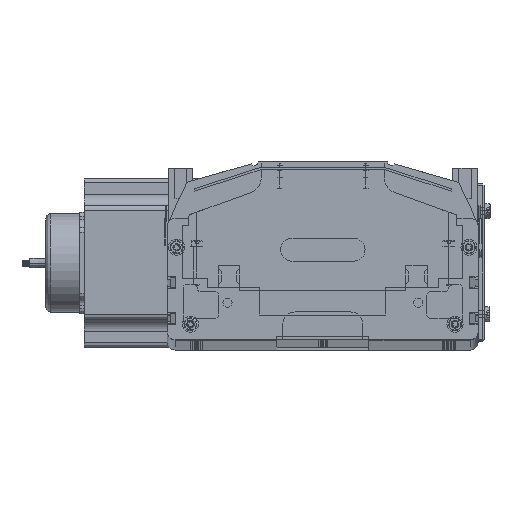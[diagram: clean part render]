
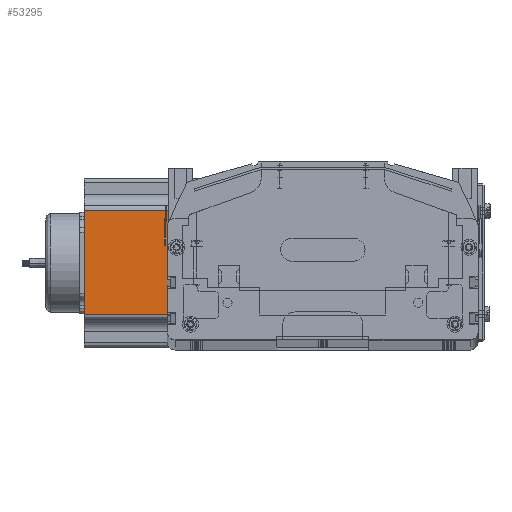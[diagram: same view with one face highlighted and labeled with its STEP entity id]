
A CAD part, top view. The second image highlights one B-rep face of the part: STEP entity #53295.
In plain terms, the highlighted planar face has unit normal (0, 0, 1) as drawn and (0, -1, 0) by its records, which use the part's own axes.
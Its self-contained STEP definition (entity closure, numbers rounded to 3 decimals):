
#53284 = ORIENTED_EDGE ( 'NONE', *, *, #53412, .T. ) ;
#53295 = ADVANCED_FACE ( 'NONE', ( #74134 ), #74128, .F. ) ;
#53298 = VERTEX_POINT ( 'NONE', #74209 ) ;
#53300 = ORIENTED_EDGE ( 'NONE', *, *, #53407, .T. ) ;
#53407 = EDGE_CURVE ( 'NONE', #53298, #53441, #58191, .T. ) ;
#53412 = EDGE_CURVE ( 'NONE', #53700, #53298, #57744, .T. ) ;
#53416 = ORIENTED_EDGE ( 'NONE', *, *, #53434, .F. ) ;
#53434 = EDGE_CURVE ( 'NONE', #53443, #53441, #57648, .T. ) ;
#53441 = VERTEX_POINT ( 'NONE', #57603 ) ;
#53443 = VERTEX_POINT ( 'NONE', #57599 ) ;
#53577 = ORIENTED_EDGE ( 'NONE', *, *, #54438, .T. ) ;
#53700 = VERTEX_POINT ( 'NONE', #66449 ) ;
#53703 = EDGE_LOOP ( 'NONE', ( #53284, #53300, #53416, #53577 ) ) ;
#54438 = EDGE_CURVE ( 'NONE', #53443, #53700, #70295, .T. ) ;
#57599 = CARTESIAN_POINT ( 'NONE',  ( 21.048, 0., 160.5 ) ) ;
#57603 = CARTESIAN_POINT ( 'NONE',  ( 88.952, 0., 160.5 ) ) ;
#57644 = DIRECTION ( 'NONE',  ( 1., 0., 0. ) ) ;
#57646 = VECTOR ( 'NONE', #57644, 1000. ) ;
#57647 = CARTESIAN_POINT ( 'NONE',  ( 0., 0., 160.5 ) ) ;
#57648 = LINE ( 'NONE', #57647, #57646 ) ;
#57735 = DIRECTION ( 'NONE',  ( 1., 0., 0. ) ) ;
#57737 = VECTOR ( 'NONE', #57735, 1000. ) ;
#57741 = CARTESIAN_POINT ( 'NONE',  ( 0., 0., 0. ) ) ;
#57744 = LINE ( 'NONE', #57741, #57737 ) ;
#57764 = DIRECTION ( 'NONE',  ( 0., 0., 1. ) ) ;
#57766 = VECTOR ( 'NONE', #57764, 1000. ) ;
#57781 = CARTESIAN_POINT ( 'NONE',  ( 88.952, 0., 160.5 ) ) ;
#58191 = LINE ( 'NONE', #57781, #57766 ) ;
#66449 = CARTESIAN_POINT ( 'NONE',  ( 21.048, 0., 0. ) ) ;
#70289 = DIRECTION ( 'NONE',  ( 0., 0., -1. ) ) ;
#70292 = VECTOR ( 'NONE', #70289, 1000. ) ;
#70293 = CARTESIAN_POINT ( 'NONE',  ( 21.048, 0., 160.5 ) ) ;
#70295 = LINE ( 'NONE', #70293, #70292 ) ;
#73888 = DIRECTION ( 'NONE',  ( 0., 0., 1. ) ) ;
#73890 = DIRECTION ( 'NONE',  ( 0., 1., 0. ) ) ;
#74128 = PLANE ( 'NONE',  #74464 ) ;
#74134 = FACE_OUTER_BOUND ( 'NONE', #53703, .T. ) ;
#74142 = CARTESIAN_POINT ( 'NONE',  ( 0., 0., 160.5 ) ) ;
#74209 = CARTESIAN_POINT ( 'NONE',  ( 88.952, 0., 0. ) ) ;
#74464 = AXIS2_PLACEMENT_3D ( 'NONE', #74142, #73890, #73888 ) ;
